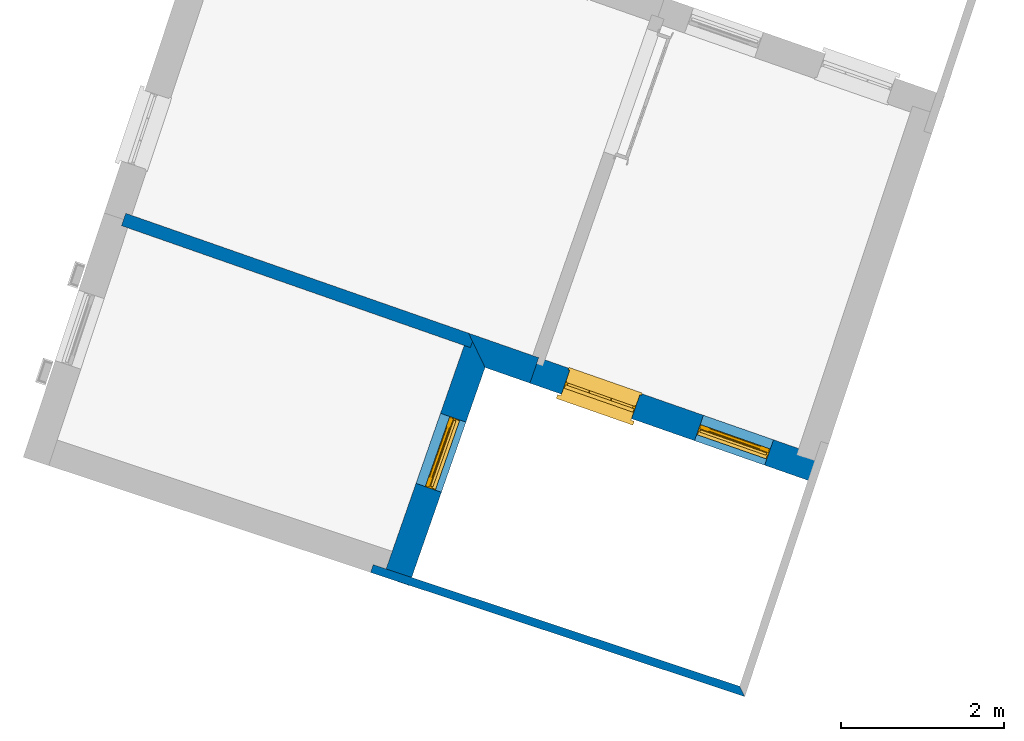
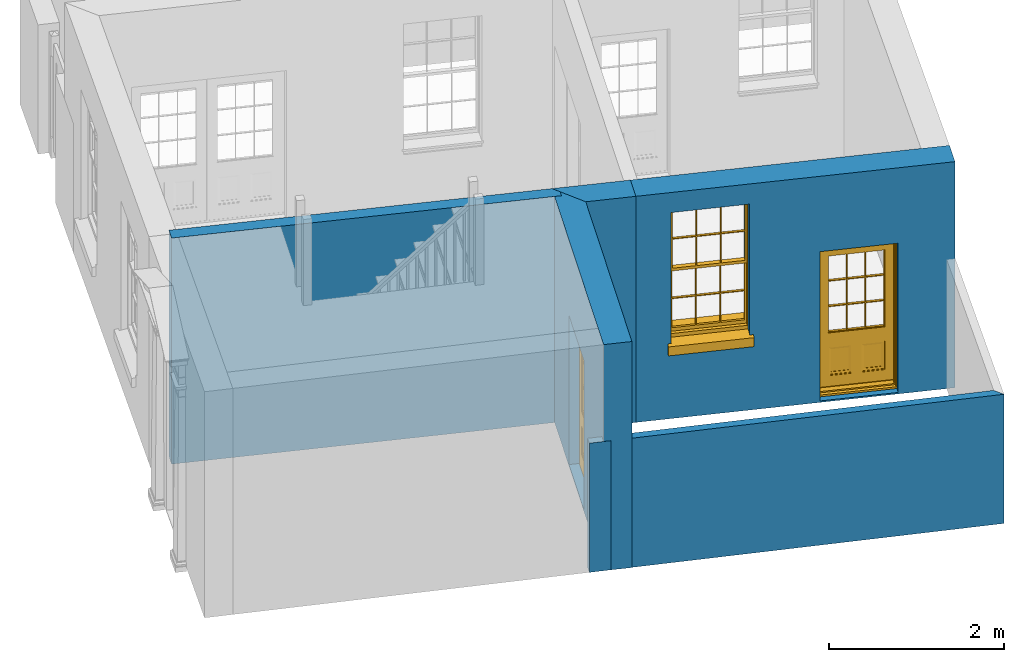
# One storey, part 3 of 10: 5 walls, 2 doors, 1 window, 3 openings.
"""IFC4 building model written with IfcOpenShell, lengths in metres."""

from ifc_helpers import new_model, si_unit, frame, origin, origin_with_axes, place, context, subcontext, project, spatial, polyline, outline, extrude, faceted_brep, source, transform, mapped, material, layer, layer_set, layer_usage, type_object, type_shapes, element, fill, save


model = new_model("IFC4")

# Units and contexts
model_context = context("Model", 3, world=origin_with_axes())
body_context = subcontext(model_context, "Body", "Model", "MODEL_VIEW")
ifc_project = project(units=[si_unit("PLANEANGLEUNIT", "RADIAN"), si_unit("MASSUNIT", "GRAM", prefix="KILO"), si_unit("FORCEUNIT", "NEWTON", prefix="KILO"), si_unit("LENGTHUNIT", "METRE"), si_unit("AREAUNIT", "SQUARE_METRE"), si_unit("VOLUMEUNIT", "CUBIC_METRE")], contexts=[model_context, model_context])

# Sites, building, storey
site_1_placement = place(None, origin_with_axes())
site_1 = spatial("IfcSite", under=ifc_project, at=site_1_placement, Name="Tamar")
site_2_placement = place(site_1_placement, origin_with_axes())
site_2 = spatial("IfcSite", under=site_1, at=site_2_placement, Name="Site plot-15", CompositionType="ELEMENT")
building_placement = place(None, origin_with_axes())
building = spatial("IfcBuilding", under=site_2, at=building_placement, Name="Building plot-15", CompositionType="ELEMENT")
storey_placement = place(None, frame((0.0, 0.0, 26.8), z_axis=(0.0, 0.0, 1.0), x_axis=(1.0, 0.0, 0.0)))
storey = spatial("IfcBuildingStorey", under=building, at=storey_placement, Name="plot-15 0", CompositionType="ELEMENT", Elevation=26.8)

# Wall, opening, door
ifc_material_1 = material(Name="Masonry")
ifc_layer_1 = layer(ifc_material_1, 0.33, ventilated=False)
ifc_layer_set_1 = layer_set([ifc_layer_1], Name="exterior_0.08_0.25")
ifc_layer_usage_1 = layer_usage(ifc_layer_set_1, "AXIS2", "POSITIVE", -0.25)
wall_type_1 = type_object("IfcWallType", Name="exterior_0.08_0.25", PredefinedType="SOLIDWALL", material=ifc_layer_set_1)
wall_1_placement = place(storey_placement, frame((260.575215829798, 302.577917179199, 0.0), z_axis=(0.0, 0.0, 1.0), x_axis=(0.330001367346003, 0.943980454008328, 0.0)))
wall_1 = element("IfcWall", 1, at=wall_1_placement, inside=storey, type_object=wall_type_1, material=ifc_layer_usage_1, Name="exterior", context=body_context, shape_type="SweptSolid", body=[
    extrude(outline(polyline([(-0.250000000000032, 0.0800000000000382), (-0.250000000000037, -0.250000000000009), (2.58002127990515, -0.250000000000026), (2.91002127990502, 0.0800000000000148), (-0.250000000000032, 0.0800000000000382)])), origin_with_axes(), (0.0, 0.0, 1.0), 3.15),
])
opening_1_placement = place(wall_1_placement, frame((0.96001063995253, 0.0, 0.0199999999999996)))
opening_1 = element("IfcOpeningElement", 2, at=opening_1_placement, cuts=wall_1, Name="My Opening", ObjectType="Opening", context=body_context, shape_type="SweptSolid", body=[
    extrude(outline(polyline([(0.0, -0.270000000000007), (0.909999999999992, -0.270000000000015), (0.909999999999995, 1.10000000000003), (2.88657986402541e-15, 1.10000000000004), (0.0, -0.270000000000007)])), origin_with_axes(), (0.0, 0.0, 1.0), 2.08),
])
door_type = type_object("IfcDoorType", Name="door_panelled", OperationType="SINGLE_SWING_LEFT", PredefinedType="NOTDEFINED")
shared_shape_1 = source(origin(), body_context, "Body", "Brep", [
    faceted_brep([(0.545, 0.195, 0.265), (0.745, 0.195, 0.265), (0.745, 0.2, 0.265), (0.545, 0.2, 0.265), (0.745, 0.2, 0.58), (0.545, 0.2, 0.58), (0.545, 0.195, 0.58), (0.515, 0.19, 0.235), (0.775, 0.19, 0.235), (0.745, 0.195, 0.58), (0.515, 0.19, 0.61), (0.515, 0.185, 0.235), (0.775, 0.185, 0.235), (0.775, 0.19, 0.61), (0.515, 0.185, 0.61), (0.785, 0.185, 0.225), (0.505, 0.185, 0.225), (0.775, 0.185, 0.61), (0.505, 0.185, 0.62), (0.785, 0.185, 0.62), (0.505, 0.18, 0.225), (0.785, 0.18, 0.225), (0.505, 0.18, 0.62), (0.785, 0.18, 0.62), (0.883, 0.18, 0.075), (0.898, 0.18, 0.075), (0.405, 0.18, 0.62), (0.405, 0.18, 0.225), (0.027, 0.18, 0.075), (0.785, 0.18, 0.82), (0.125, 0.18, 0.82), (0.405, 0.185, 0.62), (0.405, 0.185, 0.225), (0.898, 0.18, 2.068), (0.027, 0.17, 0.075), (0.883, 0.17, 0.075), (0.125, 0.18, 0.225), (0.012, 0.18, 0.075), (0.785, 0.19, 0.82), (0.125, 0.19, 0.82), (0.125, 0.18, 0.62), (0.125, 0.185, 0.62), (0.395, 0.185, 0.61), (0.395, 0.185, 0.235), (0.125, 0.185, 0.225), (0.785, 0.18, 1.895), (0.027, 0.14, 0.045), (0.883, 0.14, 0.045), (0.558333, 0.19, 0.83), (0.351667, 0.19, 0.83), (0.125, 0.18, 1.895), (0.125, 0.19, 1.895), (0.785, 0.19, 1.895), (0.012, 0.18, 2.068), (0.135, 0.185, 0.61), (0.395, 0.19, 0.61), (0.395, 0.19, 0.235), (0.135, 0.185, 0.235), (0.027, 0.14, 0.027), (0.883, 0.14, 0.027), (0.568333, 0.19, 0.83), (0.558333, 0.22, 0.83), (0.351667, 0.22, 0.83), (0.341667, 0.19, 0.83), (0.135, 0.19, 1.185), (0.135, 0.19, 1.53), (0.775, 0.19, 1.53), (0.775, 0.19, 1.185), (0.135, 0.19, 0.61), (0.365, 0.195, 0.58), (0.365, 0.195, 0.265), (0.135, 0.19, 0.235), (0.568333, 0.19, 1.175), (0.558333, 0.19, 1.175), (0.775, 0.19, 0.83), (0.558333, 0.22, 1.175), (0.785, 0.22, 0.82), (0.125, 0.22, 0.82), (0.351667, 0.22, 1.175), (0.351667, 0.19, 1.175), (0.341667, 0.19, 1.175), (0.135, 0.19, 0.83), (0.135, 0.19, 1.175), (0.135, 0.22, 1.185), (0.135, 0.22, 1.53), (0.135, 0.19, 1.54), (0.351667, 0.19, 1.885), (0.558333, 0.19, 1.885), (0.775, 0.22, 1.53), (0.775, 0.22, 1.185), (0.775, 0.19, 1.175), (0.775, 0.19, 1.54), (0.165, 0.195, 0.58), (0.365, 0.2, 0.58), (0.365, 0.2, 0.265), (0.165, 0.195, 0.265), (0.568333, 0.22, 0.83), (0.568333, 0.22, 1.175), (0.568333, 0.19, 1.185), (0.558333, 0.19, 1.185), (0.775, 0.22, 0.83), (0.785, 0.23, 0.82), (0.125, 0.23, 0.82), (0.341667, 0.22, 0.83), (0.341667, 0.22, 1.175), (0.351667, 0.19, 1.185), (0.341667, 0.19, 1.185), (0.135, 0.22, 0.83), (0.341667, 0.22, 1.185), (0.125, 0.22, 1.895), (0.341667, 0.22, 1.53), (0.341667, 0.19, 1.53), (0.135, 0.19, 1.885), (0.341667, 0.19, 1.54), (0.341667, 0.19, 1.885), (0.558333, 0.22, 1.885), (0.351667, 0.22, 1.885), (0.568333, 0.19, 1.885), (0.785, 0.22, 1.895), (0.568333, 0.22, 1.185), (0.568333, 0.19, 1.53), (0.568333, 0.22, 1.53), (0.568333, 0.19, 1.54), (0.775, 0.19, 1.885), (0.165, 0.2, 0.58), (0.165, 0.2, 0.265), (0.775, 0.22, 1.175), (0.558333, 0.19, 1.53), (0.351667, 0.22, 1.185), (0.558333, 0.22, 1.185), (0.505, 0.23, 0.62), (0.405, 0.23, 0.62), (0.125, 0.23, 1.895), (0.785, 0.23, 1.895), (0.351667, 0.19, 1.53), (0.135, 0.22, 1.175), (0.135, 0.22, 1.54), (0.341667, 0.22, 1.54), (0.135, 0.22, 1.885), (0.351667, 0.19, 1.54), (0.558333, 0.22, 1.54), (0.558333, 0.19, 1.54), (0.351667, 0.22, 1.54), (0.775, 0.22, 1.54), (0.568333, 0.22, 1.54), (0.775, 0.22, 1.885), (0.558333, 0.22, 1.53), (0.405, 0.23, 0.225), (0.505, 0.23, 0.225), (0.125, 0.23, 0.62), (0.785, 0.23, 0.62), (0.012, 0.23, 2.068), (0.898, 0.23, 2.068), (0.351667, 0.22, 1.53), (0.341667, 0.22, 1.885), (0.568333, 0.22, 1.885), (0.405, 0.225, 0.225), (0.405, 0.225, 0.62), (0.505, 0.225, 0.62), (0.505, 0.225, 0.225), (0.898, 0.23, 0.027), (0.012, 0.23, 0.027), (0.125, 0.225, 0.62), (0.785, 0.225, 0.62), (0.395, 0.225, 0.235), (0.395, 0.225, 0.61), (0.125, 0.23, 0.225), (0.125, 0.225, 0.225), (0.515, 0.225, 0.61), (0.515, 0.225, 0.235), (0.785, 0.23, 0.225), (0.785, 0.225, 0.225), (0.135, 0.225, 0.61), (0.775, 0.225, 0.61), (0.135, 0.225, 0.235), (0.395, 0.22, 0.235), (0.395, 0.22, 0.61), (0.515, 0.22, 0.61), (0.515, 0.22, 0.235), (0.775, 0.225, 0.235), (0.135, 0.22, 0.61), (0.775, 0.22, 0.61), (0.135, 0.22, 0.235), (0.365, 0.215, 0.265), (0.365, 0.215, 0.58), (0.545, 0.215, 0.58), (0.545, 0.215, 0.265), (0.775, 0.22, 0.235), (0.165, 0.215, 0.58), (0.745, 0.215, 0.58), (0.165, 0.215, 0.265), (0.365, 0.21, 0.58), (0.365, 0.21, 0.265), (0.545, 0.21, 0.58), (0.545, 0.21, 0.265), (0.745, 0.215, 0.265), (0.165, 0.21, 0.58), (0.745, 0.21, 0.58), (0.165, 0.21, 0.265), (0.745, 0.21, 0.265), (0.885, 0.178, 0.025), (0.025, 0.178, 0.025), (0.025, 0.15, 0.025), (0.885, 0.15, 0.025), (0.9, 0.23, 0.025), (0.01, 0.23, 0.025), (0.9, 0.178, 0.025), (0.91, 0.23, 0.0), (0.0, 0.23, 0.0), (0.01, 0.178, 0.025), (0.9, 0.178, 2.07), (0.9, 0.23, 2.07), (0.885, 0.178, 2.055), (0.91, 0.23, 2.08), (0.01, 0.23, 2.07), (0.0, 0.23, 2.08), (0.01, 0.178, 2.07), (0.025, 0.178, 2.055), (0.0, 0.1, 2.08), (0.91, 0.1, 2.08), (0.01, 0.1, 2.07), (0.9, 0.1, 2.07), (0.01, 0.15, 2.07), (0.9, 0.15, 2.07), (0.0, 0.1, 0.0), (0.91, 0.1, 0.0), (0.01, 0.1, 0.025), (0.9, 0.1, 0.025), (0.01, 0.15, 0.025), (0.025, 0.15, 2.055), (0.9, 0.15, 0.025), (0.885, 0.15, 2.055), (0.898, 0.18, 0.027), (0.012, 0.18, 0.027), (0.883, 0.18, 0.027), (0.027, 0.18, 0.027)], [[[0, 1, 2, 3]], [[2, 4, 5, 3]], [[0, 3, 5, 6]], [[1, 0, 7, 8]], [[9, 4, 2, 1]], [[9, 6, 5, 4]], [[0, 6, 10, 7]], [[8, 7, 11, 12]], [[8, 13, 9, 1]], [[13, 10, 6, 9]], [[7, 10, 14, 11]], [[15, 12, 11, 16]], [[12, 17, 13, 8]], [[17, 14, 10, 13]], [[18, 16, 11, 14]], [[15, 19, 17, 12]], [[15, 16, 20, 21]], [[14, 17, 19, 18]], [[16, 18, 22, 20]], [[21, 23, 19, 15]], [[24, 25, 21, 20]], [[23, 22, 18, 19]], [[20, 22, 26, 27]], [[23, 21, 25]], [[28, 24, 20, 27]], [[22, 23, 29]], [[29, 30, 26, 22]], [[27, 26, 31, 32]], [[23, 25, 33, 29]], [[34, 35, 24, 28]], [[28, 27, 36, 37]], [[38, 39, 30, 29]], [[26, 30, 40]], [[26, 40, 41, 31]], [[42, 43, 32, 31]], [[32, 44, 36, 27]], [[33, 45, 29]], [[46, 47, 35, 34]], [[36, 40, 37]], [[39, 38, 48, 49]], [[50, 30, 39, 51]], [[29, 45, 52, 38]], [[53, 37, 40, 30]], [[44, 41, 40, 36]], [[31, 41, 54, 42]], [[43, 42, 55, 56]], [[57, 44, 32, 43]], [[50, 45, 33, 53]], [[47, 46, 58, 59]], [[60, 48, 38]], [[49, 48, 61, 62]], [[49, 63, 39]], [[50, 53, 30]], [[51, 39, 64, 65]], [[45, 50, 51, 52]], [[66, 67, 38, 52]], [[57, 54, 41, 44]], [[42, 54, 68, 55]], [[56, 55, 69, 70]], [[56, 71, 57, 43]], [[60, 72, 73, 48]], [[60, 38, 74]], [[48, 73, 75, 61]], [[76, 77, 62, 61]], [[62, 78, 79, 49]], [[49, 79, 80, 63]], [[63, 81, 39]], [[82, 64, 39]], [[65, 64, 83, 84]], [[85, 51, 65]], [[52, 51, 86, 87]], [[88, 89, 67, 66]], [[90, 38, 67]], [[91, 66, 52]], [[71, 68, 54, 57]], [[55, 68, 92, 69]], [[69, 93, 94, 70]], [[70, 95, 71, 56]], [[96, 97, 72, 60]], [[73, 72, 98, 99]], [[74, 38, 90]], [[100, 96, 60, 74]], [[75, 73, 79, 78]], [[61, 75, 97, 96]], [[101, 102, 77, 76]], [[77, 103, 62]], [[96, 76, 61]], [[103, 104, 78, 62]], [[80, 79, 105, 106]], [[63, 80, 104, 103]], [[81, 63, 103, 107]], [[81, 82, 39]], [[106, 64, 82, 80]], [[106, 108, 83, 64]], [[84, 83, 77, 109]], [[110, 111, 65, 84]], [[112, 51, 85]], [[113, 85, 65, 111]], [[114, 86, 51]], [[115, 87, 86, 116]], [[117, 52, 87]], [[118, 76, 89, 88]], [[119, 98, 67, 89]], [[120, 121, 88, 66]], [[67, 98, 72, 90]], [[91, 122, 120, 66]], [[91, 52, 123]], [[95, 92, 68, 71]], [[69, 92, 124, 93]], [[94, 93, 124, 125]], [[94, 125, 95, 70]], [[72, 97, 126, 90]], [[127, 99, 98, 120]], [[99, 105, 79, 73]], [[74, 90, 126, 100]], [[96, 100, 76]], [[128, 129, 75, 78]], [[97, 75, 129, 119]], [[130, 131, 102, 101]], [[109, 77, 102, 132]], [[133, 101, 76, 118]], [[77, 107, 103]], [[78, 104, 108, 128]], [[111, 106, 105, 134]], [[104, 80, 82, 135]], [[107, 135, 82, 81]], [[110, 108, 106, 111]], [[104, 135, 83, 108]], [[83, 135, 77]], [[136, 84, 109]], [[110, 84, 136, 137]], [[114, 51, 112]], [[85, 136, 138, 112]], [[113, 137, 136, 85]], [[111, 134, 139, 113]], [[86, 114, 113, 139]], [[140, 141, 87, 115]], [[139, 142, 116, 86]], [[109, 118, 115, 116]], [[117, 123, 52]], [[117, 87, 141, 122]], [[126, 89, 76]], [[143, 118, 88]], [[120, 98, 119, 121]], [[119, 89, 126, 97]], [[144, 143, 88, 121]], [[144, 122, 91, 143]], [[127, 120, 122, 141]], [[143, 91, 123, 145]], [[124, 92, 95, 125]], [[146, 129, 99, 127]], [[99, 129, 128, 105]], [[100, 126, 76]], [[121, 119, 129, 146]], [[147, 131, 130, 148]], [[131, 149, 102]], [[130, 101, 150]], [[102, 151, 132]], [[118, 109, 132, 133]], [[101, 133, 152]], [[107, 77, 135]], [[153, 128, 108, 110]], [[134, 105, 128, 153]], [[109, 138, 136]], [[153, 110, 137, 142]], [[154, 114, 112, 138]], [[137, 113, 114, 154]], [[141, 139, 134, 127]], [[141, 140, 142, 139]], [[144, 140, 115, 155]], [[142, 137, 154, 116]], [[155, 115, 118]], [[116, 154, 109]], [[117, 155, 145, 123]], [[122, 144, 155, 117]], [[143, 145, 118]], [[121, 146, 140, 144]], [[146, 127, 134, 153]], [[156, 157, 131, 147]], [[148, 130, 158, 159]], [[148, 160, 161, 147]], [[157, 162, 149, 131]], [[161, 151, 102, 149]], [[101, 152, 160, 150]], [[163, 158, 130, 150]], [[151, 152, 133, 132]], [[154, 138, 109]], [[142, 140, 146, 153]], [[145, 155, 118]], [[157, 156, 164, 165]], [[147, 166, 167, 156]], [[168, 169, 159, 158]], [[170, 148, 159, 171]], [[148, 170, 160]], [[166, 147, 161]], [[172, 162, 157, 165]], [[166, 149, 162, 167]], [[166, 161, 149]], [[150, 160, 170]], [[163, 173, 168, 158]], [[171, 163, 150, 170]], [[174, 164, 156, 167]], [[175, 176, 165, 164]], [[169, 168, 177, 178]], [[171, 159, 169, 179]], [[167, 162, 172, 174]], [[176, 180, 172, 165]], [[179, 173, 163, 171]], [[181, 177, 168, 173]], [[164, 174, 182, 175]], [[183, 184, 176, 175]], [[178, 177, 185, 186]], [[179, 169, 178, 187]], [[174, 172, 180, 182]], [[184, 188, 180, 176]], [[187, 181, 173, 179]], [[189, 185, 177, 181]], [[175, 182, 190, 183]], [[191, 184, 183, 192]], [[185, 193, 194, 186]], [[187, 178, 186, 195]], [[182, 180, 188, 190]], [[191, 196, 188, 184]], [[195, 189, 181, 187]], [[197, 193, 185, 189]], [[183, 190, 198, 192]], [[198, 196, 191, 192]], [[194, 193, 197, 199]], [[195, 186, 194, 199]], [[188, 196, 198, 190]], [[197, 189, 195, 199]], [[200, 201, 202, 203]], [[201, 200, 204, 205]], [[206, 204, 200]], [[204, 207, 208, 205]], [[209, 201, 205]], [[210, 211, 204, 206]], [[206, 200, 212, 210]], [[211, 213, 207, 204]], [[214, 205, 208, 215]], [[216, 217, 201, 209]], [[205, 214, 216, 209]], [[216, 214, 211, 210]], [[210, 212, 217, 216]], [[214, 215, 213, 211]], [[218, 219, 213, 215]], [[219, 218, 220, 221]], [[221, 220, 222, 223]], [[215, 208, 224, 218]], [[225, 224, 208, 207]], [[224, 226, 220, 218]], [[224, 225, 227, 226]], [[219, 225, 207, 213]], [[228, 222, 220, 226]], [[219, 221, 227, 225]], [[226, 227, 203, 202]], [[202, 229, 222, 228]], [[228, 226, 202]], [[227, 221, 223, 230]], [[230, 203, 227]], [[217, 229, 202, 201]], [[231, 223, 222, 229]], [[230, 223, 231, 203]], [[231, 229, 217, 212]], [[212, 200, 203, 231]], [[33, 152, 151, 53]], [[25, 160, 152, 33]], [[161, 37, 53, 151]], [[232, 160, 25]], [[161, 233, 37]], [[160, 232, 234]], [[24, 234, 232, 25]], [[233, 161, 235]], [[37, 233, 235, 28]], [[161, 160, 234, 235]], [[35, 47, 234, 24]], [[28, 235, 46, 34]], [[58, 235, 234, 59]], [[59, 234, 47]], [[58, 46, 235]]]),
])
type_shapes(door_type, [shared_shape_1])
door_1_placement = place(storey_placement, frame((261.146895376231, 303.395048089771, 0.0199999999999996), z_axis=(0.0, 0.0, 1.0), x_axis=(0.300301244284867, 0.859022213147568, 0.0)))
door_1 = element("IfcDoor", 3, at=door_1_placement, inside=storey, type_object=door_type, Name="circulation outside door", OverallHeight=2.08, OverallWidth=0.91, context=body_context, shape_type="MappedRepresentation", body=[
    mapped(shared_shape_1, transform((0.0, 0.0, 0.0), scale=1.0)),
])
fill(opening_1, door_1)

# Wall
wall_2_placement = place(storey_placement, frame((261.509126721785, 305.249401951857, 0.0), z_axis=(0.0, 0.0, 1.0), x_axis=(0.943980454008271, -0.330001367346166, 0.0)))
element("IfcWall", 4, at=wall_2_placement, inside=storey, type_object=wall_type_1, material=ifc_layer_usage_1, Name="exterior", context=body_context, shape_type="SweptSolid", body=[
    extrude(outline(polyline([(-0.0800000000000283, 0.0799999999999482), (0.250000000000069, -0.249999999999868), (0.831917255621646, -0.249999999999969), (0.831917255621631, 0.0799999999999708), (-0.0800000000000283, 0.0799999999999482)])), origin_with_axes(), (0.0, 0.0, 1.0), 3.15),
])

# Wall, openings, door, window
wall_3_placement = place(storey_placement, frame((262.294440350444, 304.974868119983, 0.0), z_axis=(0.0, 0.0, 1.0), x_axis=(0.943980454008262, -0.33000136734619, 0.0)))
wall_3 = element("IfcWall", 5, at=wall_3_placement, inside=storey, type_object=wall_type_1, material=ifc_layer_usage_1, Name="exterior", context=body_context, shape_type="SweptSolid", body=[
    extrude(outline(polyline([(-5.92813325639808e-15, 0.0799999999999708), (1.70515103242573e-14, -0.249999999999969), (3.7063822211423, -0.249999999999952), (3.70638222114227, 0.079999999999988), (-5.92813325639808e-15, 0.0799999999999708)])), origin_with_axes(), (0.0, 0.0, 1.0), 3.15),
])
opening_2_placement = place(wall_3_placement, frame((0.409095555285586, 0.0, 1.05)))
opening_2 = element("IfcOpeningElement", 6, at=opening_2_placement, cuts=wall_3, Name="My Opening", ObjectType="Opening", context=body_context, shape_type="SweptSolid", body=[
    extrude(outline(polyline([(0.0, -0.270000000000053), (0.909999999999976, -0.270000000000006), (0.909999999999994, 1.10000000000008), (1.82631687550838e-14, 1.10000000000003), (0.0, -0.270000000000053)])), origin_with_axes(), (0.0, 0.0, 1.0), 1.82),
])
opening_3_placement = place(wall_3_placement, frame((2.13728666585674, 0.0, 0.0199999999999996)))
opening_3 = element("IfcOpeningElement", 7, at=opening_3_placement, cuts=wall_3, Name="My Opening", ObjectType="Opening", context=body_context, shape_type="SweptSolid", body=[
    extrude(outline(polyline([(0.0, -0.270000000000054), (0.909999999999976, -0.270000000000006), (0.909999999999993, 1.10000000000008), (1.77635683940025e-14, 1.10000000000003), (0.0, -0.270000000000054)])), origin_with_axes(), (0.0, 0.0, 1.0), 2.08),
])
door_2_placement = place(storey_placement, frame((264.222896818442, 304.014685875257, 0.0199999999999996), z_axis=(0.0, 0.0, 1.0), x_axis=(0.859022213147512, -0.300301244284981, 0.0)))
door_2 = element("IfcDoor", 8, at=door_2_placement, inside=storey, type_object=door_type, Name="kitchen outside door", OverallHeight=2.08, OverallWidth=0.91, context=body_context, shape_type="MappedRepresentation", body=[
    mapped(shared_shape_1, transform((0.0, 0.0, 0.0), scale=1.0)),
])
fill(opening_3, door_2)
window_type = type_object("IfcWindowType", Name="sash_big", PartitioningType="DOUBLE_PANEL_HORIZONTAL", PredefinedType="NOTDEFINED")
shared_shape_2 = source(origin(), body_context, "Body", "Brep", [
    faceted_brep([(0.033125, 0.145, 0.975209), (0.01, 0.145, 0.975209), (0.033125, 0.145, 1.376042), (0.876875, 0.145, 0.975209), (0.876875, 0.145, 1.376042), (0.9, 0.145, 0.975209), (0.876875, 0.145, 1.386042), (0.876875, 0.145, 1.786875), (0.9, 0.145, 1.81), (0.033125, 0.145, 1.786875), (0.033125, 0.145, 1.386042), (0.01, 0.145, 1.81), (0.876875, 0.115, 1.376042), (0.876875, 0.115, 0.975209), (0.9, 0.115, 0.937083), (0.033125, 0.115, 1.786875), (0.01, 0.115, 1.81), (0.033125, 0.115, 1.386042), (0.01, 0.115, 0.937083), (0.033125, 0.115, 0.975209), (0.033125, 0.115, 1.376042), (0.876875, 0.115, 1.786875), (0.876875, 0.115, 1.386042), (0.9, 0.115, 1.81), (0.033125, 0.145, 0.937083), (0.01, 0.145, 0.937083), (0.033125, 0.145, 0.53625), (0.876875, 0.145, 0.937083), (0.876875, 0.145, 0.53625), (0.9, 0.145, 0.937083), (0.876875, 0.145, 0.52625), (0.876875, 0.145, 0.125417), (0.9, 0.145, 0.077167), (0.033125, 0.145, 0.125417), (0.033125, 0.145, 0.52625), (0.01, 0.145, 0.077167), (-0.0425, 0.0, 0.01), (-0.0425, -0.05, 0.001667), (0.0, 0.0, 0.01), (0.9525, 0.0, 0.01), (0.91, 0.0, 0.01), (0.9525, -0.05, 0.001667), (-0.02, 0.33, 0.077167), (0.0, 0.33, 0.077167), (-0.02, 0.36, 0.077167), (0.0, 0.19, 0.077167), (0.01, 0.19, 0.077167), (0.91, 0.19, 0.077167), (0.91, 0.33, 0.077167), (0.9, 0.19, 0.077167), (0.93, 0.33, 0.077167), (0.93, 0.36, 0.077167), (0.01, 0.175, 0.975209), (0.9, 0.175, 0.975209), (0.876875, 0.175, 0.125417), (0.876875, 0.175, 0.52625), (0.9, 0.175, 0.077167), (0.876875, 0.175, 0.53625), (0.876875, 0.175, 0.937083), (0.033125, 0.175, 0.125417), (0.01, 0.175, 0.077167), (0.033125, 0.175, 0.52625), (0.033125, 0.175, 0.937083), (0.033125, 0.175, 0.53625), (-0.02, 0.33, 0.052167), (-0.02, 0.36, 0.052167), (0.93, 0.36, 0.052167), (0.93, 0.33, 0.052167), (0.91, 0.33, 0.052167), (0.0, 0.33, 0.052167), (0.91, 0.1, 0.026667), (0.0, 0.1, 0.026667), (-0.0425, -0.05, -0.123333), (0.9525, -0.05, -0.123333), (-0.0425, 0.0, -0.123333), (0.9525, 0.0, -0.123333), (0.01, 0.19, 1.81), (0.9, 0.19, 1.81), (0.0, 0.19, 1.82), (0.91, 0.19, 1.82), (0.01, 0.1, 0.077167), (0.9, 0.1, 0.077167), (0.592292, 0.145, 0.125417), (0.592292, 0.175, 0.125417), (0.317708, 0.175, 0.125417), (0.317708, 0.145, 0.125417), (0.592292, 0.145, 0.53625), (0.317708, 0.145, 0.53625), (0.317708, 0.145, 0.52625), (0.592292, 0.145, 0.52625), (0.592292, 0.175, 0.53625), (0.317708, 0.175, 0.53625), (0.592292, 0.115, 1.386042), (0.592292, 0.145, 1.386042), (0.317708, 0.145, 1.386042), (0.317708, 0.115, 1.386042), (0.317708, 0.115, 1.376042), (0.592292, 0.115, 1.376042), (0.317708, 0.145, 1.376042), (0.592292, 0.145, 1.376042), (0.602292, 0.115, 1.376042), (0.592292, 0.115, 0.975209), (0.602292, 0.115, 0.975209), (0.602292, 0.145, 0.975209), (0.592292, 0.145, 0.975209), (0.602292, 0.145, 1.376042), (0.602292, 0.175, 0.53625), (0.602292, 0.145, 0.53625), (0.317708, 0.175, 0.52625), (0.307708, 0.175, 0.125417), (0.307708, 0.175, 0.52625), (0.602292, 0.175, 0.52625), (0.602292, 0.175, 0.125417), (0.592292, 0.175, 0.52625), (0.307708, 0.175, 0.53625), (0.317708, 0.175, 0.937083), (0.307708, 0.175, 0.937083), (0.602292, 0.175, 0.937083), (0.592292, 0.175, 0.937083), (0.307708, 0.145, 0.52625), (0.307708, 0.145, 0.125417), (0.307708, 0.145, 0.53625), (0.307708, 0.145, 0.937083), (0.592292, 0.145, 0.937083), (0.317708, 0.145, 0.937083), (0.602292, 0.145, 0.937083), (0.602292, 0.145, 0.52625), (0.602292, 0.145, 0.125417), (0.307708, 0.115, 1.386042), (0.307708, 0.115, 1.376042), (0.307708, 0.115, 0.975209), (0.317708, 0.115, 0.975209), (0.317708, 0.115, 1.786875), (0.307708, 0.115, 1.786875), (0.602292, 0.115, 1.786875), (0.592292, 0.115, 1.786875), (0.602292, 0.115, 1.386042), (0.602292, 0.145, 1.386042), (0.307708, 0.145, 1.386042), (0.307708, 0.145, 1.786875), (0.317708, 0.145, 1.786875), (0.592292, 0.145, 1.786875), (0.602292, 0.145, 1.786875), (0.307708, 0.145, 1.376042), (0.317708, 0.145, 0.975209), (0.307708, 0.145, 0.975209), (0.91, 0.1, 1.82), (0.9, 0.1, 1.81), (0.01, 0.1, 1.81), (0.0, 0.1, 1.82), (0.91, 0.0, 0.0), (0.0, 0.0, 0.0), (0.91, 0.33, 0.0), (0.0, 0.33, 0.0)], [[[0, 1, 2]], [[3, 4, 5]], [[6, 7, 8]], [[9, 10, 11]], [[12, 13, 14]], [[15, 16, 17]], [[18, 19, 20]], [[21, 22, 23]], [[24, 25, 26]], [[27, 28, 29]], [[30, 31, 32]], [[33, 34, 35]], [[14, 27, 29]], [[25, 24, 18]], [[36, 37, 38]], [[39, 40, 41]], [[42, 43, 44]], [[45, 46, 43]], [[47, 48, 49]], [[50, 51, 48]], [[1, 0, 52]], [[5, 53, 3]], [[54, 55, 56]], [[57, 58, 53]], [[59, 60, 61]], [[62, 63, 52]], [[48, 43, 46, 49]], [[51, 44, 43, 48]], [[64, 42, 44, 65]], [[65, 44, 51, 66]], [[66, 51, 50, 67]], [[65, 66, 68, 69]], [[60, 56, 49, 46]], [[70, 71, 38, 40]], [[37, 41, 40, 38]], [[37, 72, 73, 41]], [[74, 75, 73, 72]], [[8, 11, 76, 77]], [[76, 78, 79, 77]], [[32, 35, 80, 81]], [[81, 80, 71, 70]], [[82, 83, 84, 85]], [[86, 87, 88, 89]], [[86, 90, 91, 87]], [[92, 93, 94, 95]], [[92, 95, 96, 97]], [[96, 98, 99, 97]], [[100, 97, 101, 102]], [[103, 104, 99, 105]], [[97, 99, 104, 101]], [[102, 103, 105, 100]], [[28, 57, 106, 107]], [[108, 84, 109, 110]], [[111, 112, 83, 113]], [[114, 110, 61, 63]], [[90, 113, 108, 91]], [[115, 91, 114, 116]], [[117, 106, 90, 118]], [[111, 106, 57, 55]], [[119, 110, 109, 120]], [[34, 61, 110, 119]], [[89, 113, 83, 82]], [[88, 108, 113, 89]], [[85, 84, 108, 88]], [[121, 114, 63, 26]], [[122, 116, 114, 121]], [[123, 118, 90, 86]], [[87, 91, 115, 124]], [[107, 106, 117, 125]], [[126, 111, 55, 30]], [[127, 112, 111, 126]], [[126, 30, 28, 107]], [[88, 119, 120, 85]], [[126, 89, 82, 127]], [[125, 123, 86, 107]], [[121, 26, 34, 119]], [[124, 122, 121, 87]], [[128, 17, 20, 129]], [[96, 129, 130, 131]], [[132, 133, 128, 95]], [[134, 135, 92, 136]], [[100, 12, 22, 136]], [[137, 6, 4, 105]], [[94, 138, 139, 140]], [[137, 93, 141, 142]], [[99, 98, 94, 93]], [[143, 2, 10, 138]], [[144, 145, 143, 98]], [[129, 143, 145, 130]], [[20, 2, 143, 129]], [[131, 144, 98, 96]], [[128, 138, 10, 17]], [[133, 139, 138, 128]], [[135, 141, 93, 92]], [[95, 94, 140, 132]], [[22, 6, 137, 136]], [[136, 137, 142, 134]], [[100, 105, 4, 12]], [[107, 86, 89, 126]], [[106, 111, 113, 90]], [[91, 108, 110, 114]], [[87, 121, 119, 88]], [[97, 100, 136, 92]], [[129, 96, 95, 128]], [[98, 143, 138, 94]], [[105, 99, 93, 137]], [[131, 101, 104, 144]], [[124, 115, 118, 123]], [[132, 140, 141, 135]], [[120, 109, 59, 33]], [[15, 9, 139, 133]], [[134, 142, 7, 21]], [[31, 54, 112, 127]], [[36, 74, 72, 37]], [[39, 41, 73, 75]], [[18, 14, 101, 131]], [[23, 16, 132, 135]], [[83, 56, 60, 84]], [[52, 53, 118, 115]], [[53, 52, 144, 104]], [[11, 8, 141, 140]], [[14, 18, 124, 123]], [[2, 1, 11, 10]], [[8, 5, 4, 6]], [[57, 53, 56, 55]], [[60, 52, 63, 61]], [[26, 25, 35, 34]], [[32, 29, 28, 30]], [[14, 23, 22, 12]], [[18, 20, 17, 16]], [[19, 0, 2, 20]], [[17, 10, 9, 15]], [[12, 4, 3, 13]], [[21, 7, 6, 22]], [[27, 58, 57, 28]], [[30, 55, 54, 31]], [[33, 59, 61, 34]], [[26, 63, 62, 24]], [[5, 8, 77, 53]], [[76, 11, 1, 52]], [[46, 45, 78, 76]], [[49, 77, 79, 47]], [[70, 146, 147, 81]], [[71, 80, 148, 149]], [[19, 130, 145, 0]], [[102, 13, 3, 103]], [[116, 122, 24, 62]], [[29, 32, 81, 14]], [[80, 35, 25, 18]], [[60, 46, 76, 52]], [[77, 49, 56, 53]], [[23, 14, 81, 147]], [[16, 148, 80, 18]], [[35, 85, 120]], [[120, 33, 35]], [[127, 82, 32]], [[32, 31, 127]], [[32, 82, 85, 35]], [[102, 101, 14]], [[14, 13, 102]], [[18, 131, 130]], [[130, 19, 18]], [[134, 21, 23]], [[23, 135, 134]], [[16, 15, 133]], [[133, 132, 16]], [[11, 140, 139]], [[139, 9, 11]], [[142, 141, 8]], [[8, 7, 142]], [[23, 147, 148, 16]], [[146, 149, 148, 147]], [[52, 115, 116]], [[116, 62, 52]], [[118, 53, 117]], [[58, 117, 53]], [[27, 125, 117, 58]], [[56, 83, 112]], [[112, 54, 56]], [[109, 84, 60]], [[60, 59, 109]], [[125, 27, 14]], [[14, 123, 125]], [[122, 124, 18]], [[18, 24, 122]], [[145, 144, 52]], [[52, 0, 145]], [[103, 3, 53]], [[53, 104, 103]], [[79, 78, 149, 146]], [[78, 45, 71, 149]], [[146, 70, 47, 79]], [[150, 75, 74, 151]], [[68, 66, 67]], [[48, 68, 67, 50]], [[69, 64, 65]], [[42, 64, 69, 43]], [[69, 68, 152, 153]], [[70, 68, 48, 47]], [[150, 152, 68, 70]], [[43, 69, 71, 45]], [[69, 153, 151, 71]], [[152, 150, 151, 153]], [[38, 151, 74, 36]], [[71, 151, 38]], [[39, 75, 150, 40]], [[40, 150, 70]]]),
])
type_shapes(window_type, [shared_shape_2])
window_placement = place(storey_placement, frame((262.591518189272, 304.584991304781, 1.05), z_axis=(0.0, 0.0, 1.0), x_axis=(0.859022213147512, -0.300301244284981, 0.0)))
window = element("IfcWindow", 9, at=window_placement, inside=storey, type_object=window_type, Name="kitchen outside window", OverallHeight=1.82, OverallWidth=0.91, context=body_context, shape_type="MappedRepresentation", body=[
    mapped(shared_shape_2, transform((0.0, 0.0, 0.0), scale=1.0)),
])
fill(opening_2, window)

# Walls
ifc_material_2 = material(Name="Masonry")
ifc_layer_2 = layer(ifc_material_2, 0.16, ventilated=False)
ifc_layer_set_2 = layer_set([ifc_layer_2], Name="interior_0.08_0.08")
ifc_layer_usage_2 = layer_usage(ifc_layer_set_2, "AXIS2", "POSITIVE", -0.08)
wall_type_2 = type_object("IfcWallType", Name="interior_0.08_0.08", PredefinedType="SOLIDWALL", material=ifc_layer_set_2)
wall_4_placement = place(storey_placement, frame((261.509126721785, 305.249401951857, 0.0), z_axis=(0.0, 0.0, 1.0), x_axis=(-0.94398045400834, 0.330001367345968, 0.0)))
element("IfcWall", 10, at=wall_4_placement, inside=storey, type_object=wall_type_2, material=ifc_layer_usage_2, Name="interior", context=body_context, shape_type="SweptSolid", body=[
    extrude(outline(polyline([(-5.82155184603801e-15, 0.0800000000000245), (5.83134902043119e-15, -0.0800000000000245), (4.52982783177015, -0.0800000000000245), (4.52982783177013, 0.0800000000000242), (-5.82155184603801e-15, 0.0800000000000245)])), origin_with_axes(), (0.0, 0.0, 1.0), 3.15),
])
ifc_material_3 = material(Name="Masonry")
ifc_layer_3 = layer(ifc_material_3, 0.1, ventilated=False)
ifc_layer_set_3 = layer_set([ifc_layer_3], Name="fence_-0.15_0.25")
ifc_layer_usage_3 = layer_usage(ifc_layer_set_3, "AXIS2", "POSITIVE", -0.25)
wall_type_3 = type_object("IfcWallType", Name="fence_-0.15_0.25", PredefinedType="SOLIDWALL", material=ifc_layer_set_3)
wall_5_placement = place(storey_placement, frame((260.575215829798, 302.577917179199, 0.0), z_axis=(0.0, 0.0, 1.0), x_axis=(0.949078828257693, -0.315038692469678, 0.0)))
element("IfcWall", 11, at=wall_5_placement, inside=storey, type_object=wall_type_3, material=ifc_layer_usage_3, Name="fence", context=body_context, shape_type="SweptSolid", body=[
    extrude(outline(polyline([(-0.249999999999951, -0.149999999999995), (-0.249999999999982, -0.249999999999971), (4.58249769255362, -0.249999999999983), (4.48249769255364, -0.150000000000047), (-0.249999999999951, -0.149999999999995)])), origin_with_axes(), (0.0, 0.0, 1.0), 1.8),
])

save(model, "model.ifc")
